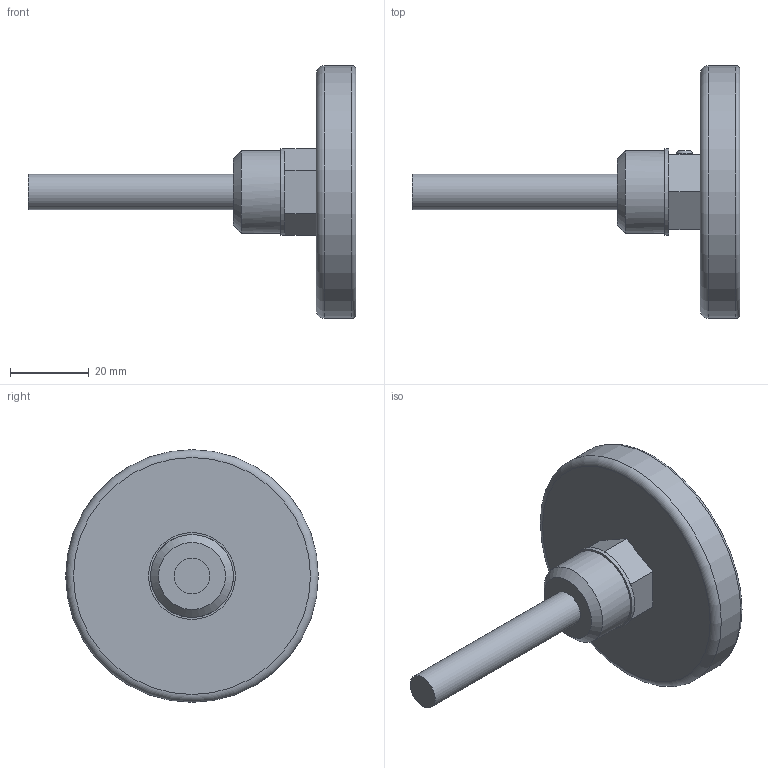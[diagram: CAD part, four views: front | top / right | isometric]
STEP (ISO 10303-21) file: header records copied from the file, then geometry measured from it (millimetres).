
FILE_DESCRIPTION(/* description */ ('БТ-31.211.64'),/* implementation_level */ '2;1');
FILE_NAME(/* name */ 'C:\STEP\БТ-31.211\БТ-31.211.64.stp',/* time_stamp */ '2023-05-23T10:01:14+03:00',/* author */ ('Tech'),/* organization */ (''),/* preprocessor_version */ 'ST-DEVELOPER v18.1',/* originating_system */ 'Autodesk Inventor 2021',/* authorisation */ '');
FILE_SCHEMA (('AUTOMOTIVE_DESIGN { 1 0 10303 214 3 1 1 }'));
Length unit declared in the file: millimetre
Products named in the file (1): БТ-31.211.64
Bounding box: 83 x 64 x 64 mm (x, y, z)
Volume: 34268.8 mm3; surface area: 15686.4 mm2
Topology: 3 solids, 3 shells, 380 faces, 943 edges, 637 vertices
Faces by surface type: plane 322, cylinder 27, bspline 26, torus 4, cone 1
Full cylindrical faces by diameter (mm): 0.564 x1, 2 x1, 2.5 x1, 4 x1, 6 x1, 7 x1, 9 x1, 12 x1, 14 x3, 20.955 x1, 22 x1, 54 x1, 64 x1
Entity records: 11804 total; most frequent: CARTESIAN_POINT 2748, ORIENTED_EDGE 1886, DIRECTION 1695, EDGE_CURVE 943, LINE 787, VECTOR 787, VERTEX_POINT 637, AXIS2_PLACEMENT_3D 454
